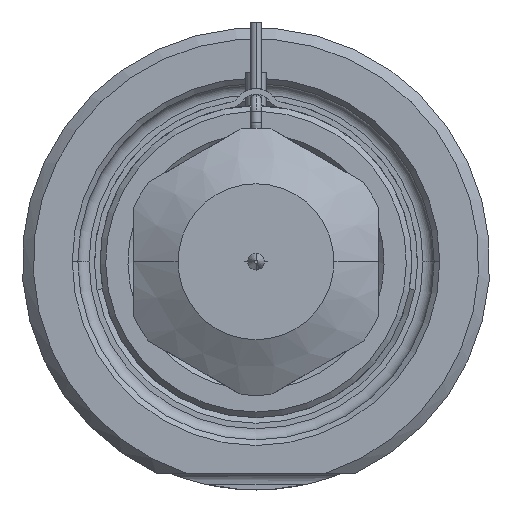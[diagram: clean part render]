
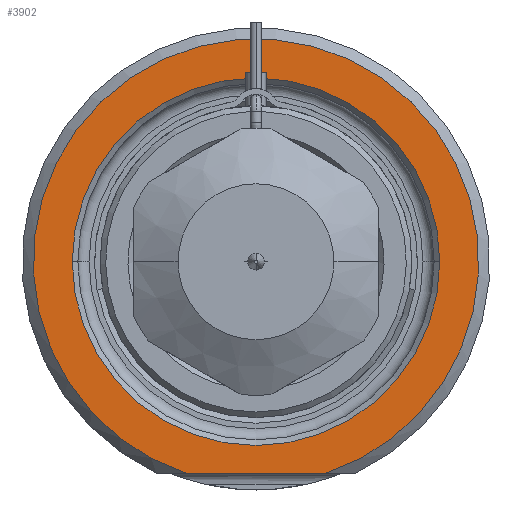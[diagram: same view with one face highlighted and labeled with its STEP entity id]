
A CAD part, front view. The second image highlights one B-rep face of the part: STEP entity #3902.
In plain terms, the highlighted planar face has unit normal (0, -1, 0).
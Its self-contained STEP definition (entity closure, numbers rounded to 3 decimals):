
#1=DIRECTION('',(1.,0.,0.));
#2=VECTOR('',#1,12.49);
#3=CARTESIAN_POINT('',(-6.245,0.,-19.));
#4=LINE('',#3,#2);
#5=CARTESIAN_POINT('',(0.,0.,0.));
#6=DIRECTION('',(0.,1.,0.));
#7=DIRECTION('',(-1.,0.,0.));
#8=AXIS2_PLACEMENT_3D('',#5,#6,#7);
#10=CARTESIAN_POINT('',(0.,0.,0.));
#11=DIRECTION('',(0.,1.,0.));
#12=DIRECTION('',(1.,0.,0.));
#13=AXIS2_PLACEMENT_3D('',#10,#11,#12);
#119=CARTESIAN_POINT('',(0.,0.,0.));
#120=DIRECTION('',(0.,-1.,0.));
#121=DIRECTION('',(0.312,0.,-0.95));
#122=AXIS2_PLACEMENT_3D('',#119,#120,#121);
#3275=CARTESIAN_POINT('',(-16.5,0.,0.));
#3276=CARTESIAN_POINT('',(16.5,0.,0.));
#3277=VERTEX_POINT('',#3275);
#3278=VERTEX_POINT('',#3276);
#3315=CARTESIAN_POINT('',(-6.245,0.,-19.));
#3316=CARTESIAN_POINT('',(6.245,0.,-19.));
#3317=VERTEX_POINT('',#3315);
#3318=VERTEX_POINT('',#3316);
#3885=CARTESIAN_POINT('',(0.,0.,0.));
#3886=DIRECTION('',(0.,-1.,0.));
#3887=DIRECTION('',(1.,0.,0.));
#3888=AXIS2_PLACEMENT_3D('',#3885,#3886,#3887);
#3889=PLANE('',#3888);
#3891=ORIENTED_EDGE('',*,*,#3890,.F.);
#3893=ORIENTED_EDGE('',*,*,#3892,.F.);
#3894=EDGE_LOOP('',(#3891,#3893));
#3895=FACE_OUTER_BOUND('',#3894,.F.);
#3897=ORIENTED_EDGE('',*,*,#3896,.F.);
#3899=ORIENTED_EDGE('',*,*,#3898,.F.);
#3900=EDGE_LOOP('',(#3897,#3899));
#3901=FACE_BOUND('',#3900,.F.);
#3902=ADVANCED_FACE('',(#3895,#3901),#3889,.T.);
#9=CIRCLE('',#8,16.5);
#14=CIRCLE('',#13,16.5);
#123=CIRCLE('',#122,20.);
#3890=EDGE_CURVE('',#3317,#3318,#4,.T.);
#3892=EDGE_CURVE('',#3318,#3317,#123,.T.);
#3896=EDGE_CURVE('',#3277,#3278,#9,.T.);
#3898=EDGE_CURVE('',#3278,#3277,#14,.T.);
